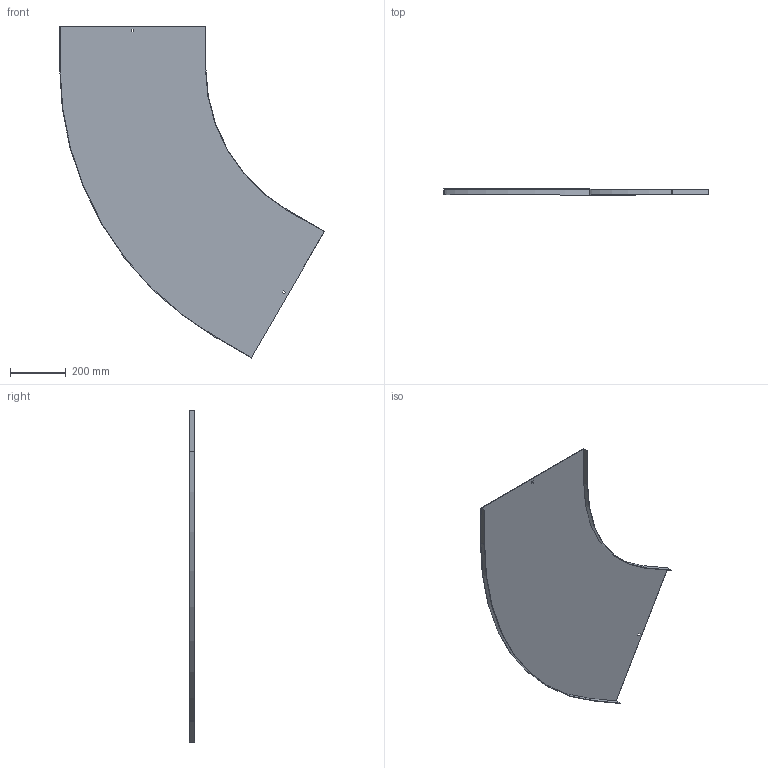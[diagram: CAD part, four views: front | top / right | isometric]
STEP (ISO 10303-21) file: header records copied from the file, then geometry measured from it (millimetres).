
FILE_DESCRIPTION (( 'STEP AP214' ), '1' );
FILE_NAME ('13N6P500.step', '2025-02-21T13:36:09', ( '' ), ( '' ), 'SwSTEP 2.0', 'SolidWorks 2023', '' );
FILE_SCHEMA (( 'AUTOMOTIVE_DESIGN' ));
Length unit declared in the file: millimetre
Products named in the file (1): 13N6P500
Bounding box: 947.15 x 20 x 1187.59 mm (x, y, z)
Volume: 999523.6 mm3; surface area: 1338041.4 mm2
Topology: 1 solids, 1 shells, 26 faces, 72 edges, 48 vertices
Faces by surface type: plane 22, cylinder 4
Entity records: 855 total; most frequent: CARTESIAN_POINT 147, ORIENTED_EDGE 144, DIRECTION 134, EDGE_CURVE 72, VECTOR 64, LINE 64, VERTEX_POINT 48, AXIS2_PLACEMENT_3D 35
